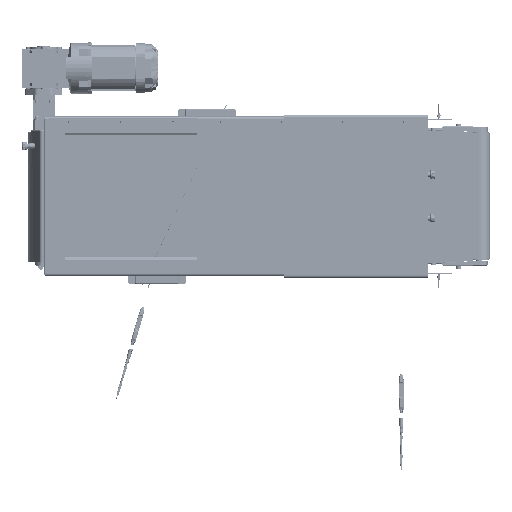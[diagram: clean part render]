
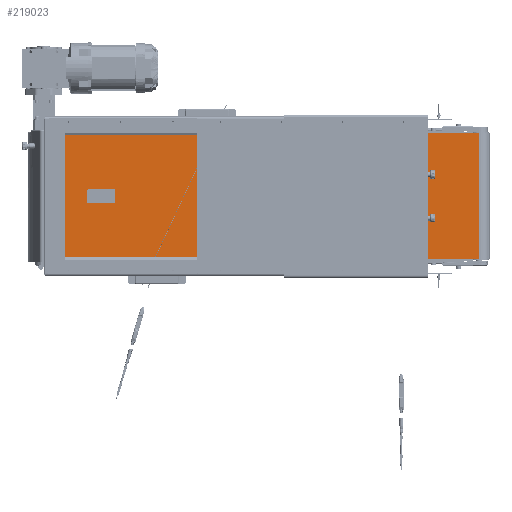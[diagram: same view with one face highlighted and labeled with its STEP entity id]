
A CAD part, front view. The second image highlights one B-rep face of the part: STEP entity #219023.
In plain terms, the highlighted planar face has unit normal (0, -1, 0) as drawn and (0, 1, 0) by its records, which use the part's own axes.
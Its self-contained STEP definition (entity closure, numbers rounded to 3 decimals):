
#4691 = CARTESIAN_POINT ( 'NONE',  ( 500.1, 24.9, 10.714 ) ) ;
#13183 = CARTESIAN_POINT ( 'NONE',  ( -500.1, 24.9, 10.714 ) ) ;
#23979 = DIRECTION ( 'NONE',  ( 0., -1., 0. ) ) ;
#25722 = EDGE_CURVE ( 'NONE', #153763, #122028, #200370, .T. ) ;
#33059 = VERTEX_POINT ( 'NONE', #84619 ) ;
#38475 = LINE ( 'NONE', #97547, #63916 ) ;
#52790 = EDGE_LOOP ( 'NONE', ( #246384, #67758, #85233, #130063 ) ) ;
#63916 = VECTOR ( 'NONE', #234710, 1000. ) ;
#64959 = DIRECTION ( 'NONE',  ( 0., 0., -1. ) ) ;
#67758 = ORIENTED_EDGE ( 'NONE', *, *, #25722, .F. ) ;
#77758 = CARTESIAN_POINT ( 'NONE',  ( 500.1, 24.9, -279.286 ) ) ;
#77952 = FACE_OUTER_BOUND ( 'NONE', #52790, .T. ) ;
#80491 = VECTOR ( 'NONE', #64959, 1000. ) ;
#84619 = CARTESIAN_POINT ( 'NONE',  ( 500.1, 24.9, 10.714 ) ) ;
#85233 = ORIENTED_EDGE ( 'NONE', *, *, #174546, .F. ) ;
#86847 = VECTOR ( 'NONE', #199541, 1000. ) ;
#97547 = CARTESIAN_POINT ( 'NONE',  ( 500.1, 24.9, 10.714 ) ) ;
#102274 = CARTESIAN_POINT ( 'NONE',  ( 500.1, 24.9, 10.714 ) ) ;
#102297 = DIRECTION ( 'NONE',  ( 0., 0., -1. ) ) ;
#117305 = EDGE_CURVE ( 'NONE', #33059, #240755, #184303, .T. ) ;
#121346 = AXIS2_PLACEMENT_3D ( 'NONE', #4691, #23979, #102297 ) ;
#122028 = VERTEX_POINT ( 'NONE', #173412 ) ;
#124794 = EDGE_CURVE ( 'NONE', #240755, #122028, #216249, .T. ) ;
#130063 = ORIENTED_EDGE ( 'NONE', *, *, #117305, .T. ) ;
#153763 = VERTEX_POINT ( 'NONE', #13183 ) ;
#163220 = CARTESIAN_POINT ( 'NONE',  ( -500.1, 24.9, 10.714 ) ) ;
#173412 = CARTESIAN_POINT ( 'NONE',  ( -500.1, 24.9, -279.286 ) ) ;
#174546 = EDGE_CURVE ( 'NONE', #33059, #153763, #38475, .T. ) ;
#184303 = LINE ( 'NONE', #102274, #80491 ) ;
#199541 = DIRECTION ( 'NONE',  ( -1., 0., 0. ) ) ;
#200370 = LINE ( 'NONE', #163220, #231205 ) ;
#216249 = LINE ( 'NONE', #77758, #86847 ) ;
#219023 = ADVANCED_FACE ( 'NONE', ( #77952 ), #234399, .F. ) ;
#222130 = DIRECTION ( 'NONE',  ( 0., 0., -1. ) ) ;
#231205 = VECTOR ( 'NONE', #222130, 1000. ) ;
#232439 = CARTESIAN_POINT ( 'NONE',  ( 500.1, 24.9, -279.286 ) ) ;
#234399 = PLANE ( 'NONE',  #121346 ) ;
#234710 = DIRECTION ( 'NONE',  ( -1., 0., 0. ) ) ;
#240755 = VERTEX_POINT ( 'NONE', #232439 ) ;
#246384 = ORIENTED_EDGE ( 'NONE', *, *, #124794, .T. ) ;
